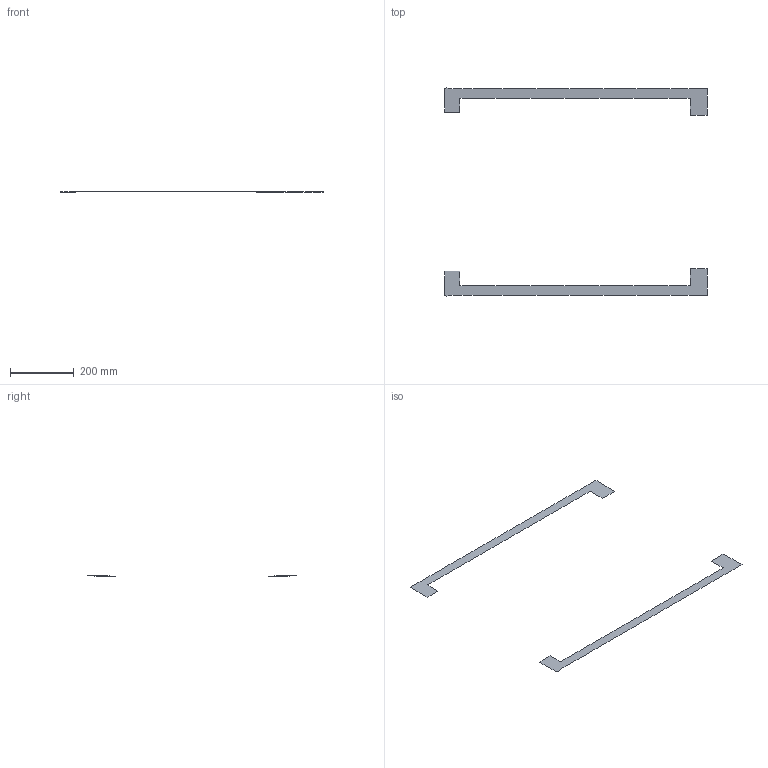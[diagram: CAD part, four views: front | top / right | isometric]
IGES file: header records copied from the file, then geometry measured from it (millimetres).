
Global section: file name: finv.iges; native system: ANSA9.x; preprocessor: 1.2; author: cai; date: **0103.144123; units: millimetre
Bounding box: 822.03 x 651.36 x 1.86 mm (x, y, z)
Surface area: 58238.1 mm2 (no closed solid volume)
Topology: 0 solids, 0 shells, 2 faces, 142 edges, 142 vertices
Faces by surface type: bspline 2
